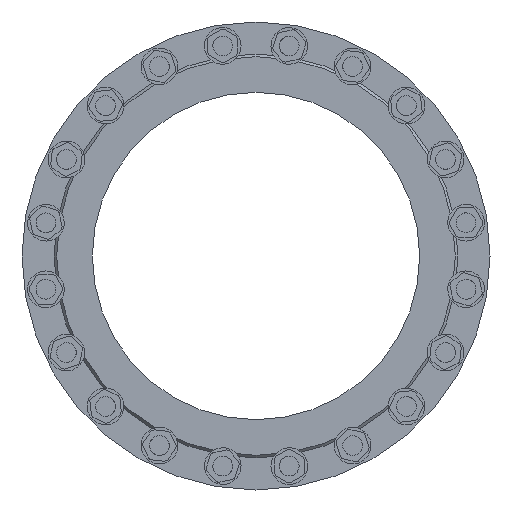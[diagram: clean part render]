
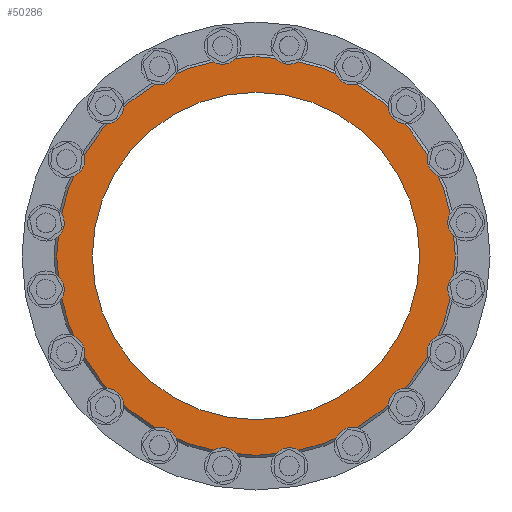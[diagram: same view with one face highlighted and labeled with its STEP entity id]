
A CAD part, left-side view. The second image highlights one B-rep face of the part: STEP entity #50286.
In plain terms, the highlighted planar face has unit normal (-1, 0, 0).
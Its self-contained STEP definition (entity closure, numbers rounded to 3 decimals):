
#1162 = PLANE ( 'NONE',  #51707 ) ;
#2770 = AXIS2_PLACEMENT_3D ( 'NONE', #24450, #29131, #53915 ) ;
#5554 = FACE_BOUND ( 'NONE', #16568, .T. ) ;
#7755 = AXIS2_PLACEMENT_3D ( 'NONE', #23058, #39857, #18950 ) ;
#10525 = CARTESIAN_POINT ( 'NONE',  ( -25., 0., -250. ) ) ;
#11475 = EDGE_CURVE ( 'NONE', #41593, #41593, #25607, .T. ) ;
#15649 = CIRCLE ( 'NONE', #7755, 250. ) ;
#16568 = EDGE_LOOP ( 'NONE', ( #48324 ) ) ;
#18950 = DIRECTION ( 'NONE',  ( 0., 0., -1. ) ) ;
#22057 = CARTESIAN_POINT ( 'NONE',  ( -25., 0., 250. ) ) ;
#22325 = DIRECTION ( 'NONE',  ( 1., 0., 0. ) ) ;
#23058 = CARTESIAN_POINT ( 'NONE',  ( -25., 0., 0. ) ) ;
#23134 = DIRECTION ( 'NONE',  ( 0., 1., 0. ) ) ;
#24450 = CARTESIAN_POINT ( 'NONE',  ( -25., 0., 0. ) ) ;
#24524 = ORIENTED_EDGE ( 'NONE', *, *, #11475, .T. ) ;
#25607 = CIRCLE ( 'NONE', #2770, 304.5 ) ;
#29131 = DIRECTION ( 'NONE',  ( -1., 0., 0. ) ) ;
#30864 = FACE_OUTER_BOUND ( 'NONE', #35224, .T. ) ;
#35224 = EDGE_LOOP ( 'NONE', ( #24524 ) ) ;
#39857 = DIRECTION ( 'NONE',  ( 1., 0., 0. ) ) ;
#41593 = VERTEX_POINT ( 'NONE', #45731 ) ;
#42888 = EDGE_CURVE ( 'NONE', #44095, #44095, #15649, .T. ) ;
#44095 = VERTEX_POINT ( 'NONE', #10525 ) ;
#45731 = CARTESIAN_POINT ( 'NONE',  ( -25., -304.5, 0. ) ) ;
#48324 = ORIENTED_EDGE ( 'NONE', *, *, #42888, .T. ) ;
#50286 = ADVANCED_FACE ( 'NONE', ( #5554, #30864 ), #1162, .F. ) ;
#51707 = AXIS2_PLACEMENT_3D ( 'NONE', #22057, #22325, #23134 ) ;
#53915 = DIRECTION ( 'NONE',  ( 0., -1., 0. ) ) ;
